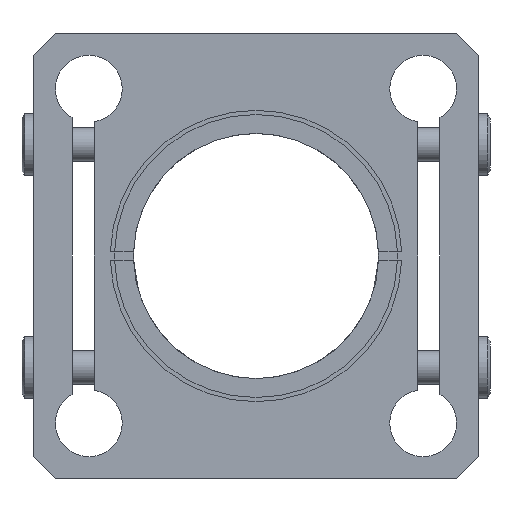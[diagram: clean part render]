
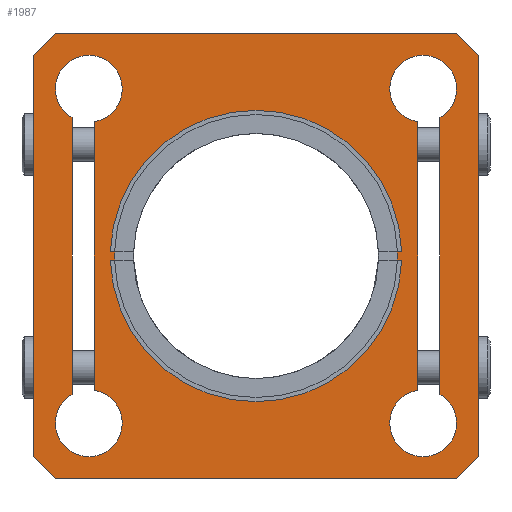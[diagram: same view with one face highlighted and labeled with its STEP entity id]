
A CAD part, front view. The second image highlights one B-rep face of the part: STEP entity #1987.
In plain terms, the highlighted planar face has unit normal (0, -1, 0).
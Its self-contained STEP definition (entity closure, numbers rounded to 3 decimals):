
#65=FACE_BOUND('',#356,.T.);
#66=FACE_BOUND('',#357,.T.);
#67=FACE_BOUND('',#358,.T.);
#142=CIRCLE('',#2133,3.);
#143=CIRCLE('',#2134,3.);
#144=CIRCLE('',#2135,3.);
#145=CIRCLE('',#2136,3.);
#146=CIRCLE('',#2137,13.075);
#147=CIRCLE('',#2138,12.7);
#148=CIRCLE('',#2139,13.075);
#149=CIRCLE('',#2140,12.7);
#150=CIRCLE('',#2141,12.7);
#230=FACE_OUTER_BOUND('',#355,.T.);
#355=EDGE_LOOP('',(#1289,#1290,#1291,#1292,#1293,#1294,#1295,#1296));
#356=EDGE_LOOP('',(#1297,#1298,#1299,#1300));
#357=EDGE_LOOP('',(#1301,#1302,#1303,#1304));
#358=EDGE_LOOP('',(#1305,#1306,#1307,#1308,#1309,#1310,#1311,#1312,#1313));
#557=LINE('',#2929,#709);
#558=LINE('',#2931,#710);
#559=LINE('',#2933,#711);
#560=LINE('',#2935,#712);
#561=LINE('',#2937,#713);
#562=LINE('',#2939,#714);
#563=LINE('',#2941,#715);
#564=LINE('',#2942,#716);
#565=LINE('',#2945,#717);
#566=LINE('',#2949,#718);
#567=LINE('',#2953,#719);
#568=LINE('',#2957,#720);
#569=LINE('',#2961,#721);
#570=LINE('',#2965,#722);
#571=LINE('',#2969,#723);
#572=LINE('',#2973,#724);
#709=VECTOR('',#2349,10.);
#710=VECTOR('',#2350,10.);
#711=VECTOR('',#2351,10.);
#712=VECTOR('',#2352,10.);
#713=VECTOR('',#2353,10.);
#714=VECTOR('',#2354,10.);
#715=VECTOR('',#2355,10.);
#716=VECTOR('',#2356,10.);
#717=VECTOR('',#2357,10.);
#718=VECTOR('',#2360,10.);
#719=VECTOR('',#2363,10.);
#720=VECTOR('',#2366,10.);
#721=VECTOR('',#2369,10.);
#722=VECTOR('',#2372,10.);
#723=VECTOR('',#2375,10.);
#724=VECTOR('',#2378,10.);
#861=VERTEX_POINT('',#2927);
#862=VERTEX_POINT('',#2928);
#863=VERTEX_POINT('',#2930);
#864=VERTEX_POINT('',#2932);
#865=VERTEX_POINT('',#2934);
#866=VERTEX_POINT('',#2936);
#867=VERTEX_POINT('',#2938);
#868=VERTEX_POINT('',#2940);
#869=VERTEX_POINT('',#2943);
#870=VERTEX_POINT('',#2944);
#871=VERTEX_POINT('',#2946);
#872=VERTEX_POINT('',#2948);
#873=VERTEX_POINT('',#2951);
#874=VERTEX_POINT('',#2952);
#875=VERTEX_POINT('',#2954);
#876=VERTEX_POINT('',#2956);
#877=VERTEX_POINT('',#2959);
#878=VERTEX_POINT('',#2960);
#879=VERTEX_POINT('',#2962);
#880=VERTEX_POINT('',#2964);
#881=VERTEX_POINT('',#2966);
#882=VERTEX_POINT('',#2968);
#883=VERTEX_POINT('',#2970);
#884=VERTEX_POINT('',#2972);
#885=VERTEX_POINT('',#2974);
#1043=EDGE_CURVE('',#861,#862,#557,.T.);
#1044=EDGE_CURVE('',#861,#863,#558,.T.);
#1045=EDGE_CURVE('',#864,#863,#559,.T.);
#1046=EDGE_CURVE('',#864,#865,#560,.T.);
#1047=EDGE_CURVE('',#866,#865,#561,.T.);
#1048=EDGE_CURVE('',#866,#867,#562,.T.);
#1049=EDGE_CURVE('',#868,#867,#563,.T.);
#1050=EDGE_CURVE('',#868,#862,#564,.T.);
#1051=EDGE_CURVE('',#869,#870,#565,.T.);
#1052=EDGE_CURVE('',#870,#871,#142,.T.);
#1053=EDGE_CURVE('',#871,#872,#566,.T.);
#1054=EDGE_CURVE('',#872,#869,#143,.T.);
#1055=EDGE_CURVE('',#873,#874,#567,.T.);
#1056=EDGE_CURVE('',#874,#875,#144,.T.);
#1057=EDGE_CURVE('',#875,#876,#568,.T.);
#1058=EDGE_CURVE('',#876,#873,#145,.T.);
#1059=EDGE_CURVE('',#877,#878,#569,.T.);
#1060=EDGE_CURVE('',#877,#879,#146,.T.);
#1061=EDGE_CURVE('',#880,#879,#570,.T.);
#1062=EDGE_CURVE('',#880,#881,#147,.T.);
#1063=EDGE_CURVE('',#882,#881,#571,.T.);
#1064=EDGE_CURVE('',#882,#883,#148,.T.);
#1065=EDGE_CURVE('',#884,#883,#572,.T.);
#1066=EDGE_CURVE('',#884,#885,#149,.T.);
#1067=EDGE_CURVE('',#885,#878,#150,.T.);
#1289=ORIENTED_EDGE('',*,*,#1043,.F.);
#1290=ORIENTED_EDGE('',*,*,#1044,.T.);
#1291=ORIENTED_EDGE('',*,*,#1045,.F.);
#1292=ORIENTED_EDGE('',*,*,#1046,.T.);
#1293=ORIENTED_EDGE('',*,*,#1047,.F.);
#1294=ORIENTED_EDGE('',*,*,#1048,.T.);
#1295=ORIENTED_EDGE('',*,*,#1049,.F.);
#1296=ORIENTED_EDGE('',*,*,#1050,.T.);
#1297=ORIENTED_EDGE('',*,*,#1051,.T.);
#1298=ORIENTED_EDGE('',*,*,#1052,.T.);
#1299=ORIENTED_EDGE('',*,*,#1053,.T.);
#1300=ORIENTED_EDGE('',*,*,#1054,.T.);
#1301=ORIENTED_EDGE('',*,*,#1055,.T.);
#1302=ORIENTED_EDGE('',*,*,#1056,.T.);
#1303=ORIENTED_EDGE('',*,*,#1057,.T.);
#1304=ORIENTED_EDGE('',*,*,#1058,.T.);
#1305=ORIENTED_EDGE('',*,*,#1059,.F.);
#1306=ORIENTED_EDGE('',*,*,#1060,.T.);
#1307=ORIENTED_EDGE('',*,*,#1061,.F.);
#1308=ORIENTED_EDGE('',*,*,#1062,.T.);
#1309=ORIENTED_EDGE('',*,*,#1063,.F.);
#1310=ORIENTED_EDGE('',*,*,#1064,.T.);
#1311=ORIENTED_EDGE('',*,*,#1065,.F.);
#1312=ORIENTED_EDGE('',*,*,#1066,.T.);
#1313=ORIENTED_EDGE('',*,*,#1067,.T.);
#1781=PLANE('',#2132);
#1987=ADVANCED_FACE('',(#230,#65,#66,#67),#1781,.T.);
#2132=AXIS2_PLACEMENT_3D('',#2926,#2347,#2348);
#2133=AXIS2_PLACEMENT_3D('',#2947,#2358,#2359);
#2134=AXIS2_PLACEMENT_3D('',#2950,#2361,#2362);
#2135=AXIS2_PLACEMENT_3D('',#2955,#2364,#2365);
#2136=AXIS2_PLACEMENT_3D('',#2958,#2367,#2368);
#2137=AXIS2_PLACEMENT_3D('',#2963,#2370,#2371);
#2138=AXIS2_PLACEMENT_3D('',#2967,#2373,#2374);
#2139=AXIS2_PLACEMENT_3D('',#2971,#2376,#2377);
#2140=AXIS2_PLACEMENT_3D('',#2975,#2379,#2380);
#2141=AXIS2_PLACEMENT_3D('',#2976,#2381,#2382);
#2347=DIRECTION('center_axis',(0.,-1.,0.));
#2348=DIRECTION('ref_axis',(0.,0.,-1.));
#2349=DIRECTION('',(-0.707,0.,-0.707));
#2350=DIRECTION('',(0.,0.,1.));
#2351=DIRECTION('',(0.707,0.,-0.707));
#2352=DIRECTION('',(-1.,0.,0.));
#2353=DIRECTION('',(0.707,0.,0.707));
#2354=DIRECTION('',(0.,0.,-1.));
#2355=DIRECTION('',(-0.707,0.,0.707));
#2356=DIRECTION('',(1.,0.,0.));
#2357=DIRECTION('',(0.,0.,-1.));
#2358=DIRECTION('center_axis',(0.,1.,0.));
#2359=DIRECTION('ref_axis',(1.,0.,0.));
#2360=DIRECTION('',(0.,0.,1.));
#2361=DIRECTION('center_axis',(0.,1.,0.));
#2362=DIRECTION('ref_axis',(1.,0.,0.));
#2363=DIRECTION('',(0.,0.,-1.));
#2364=DIRECTION('center_axis',(0.,1.,0.));
#2365=DIRECTION('ref_axis',(1.,0.,0.));
#2366=DIRECTION('',(0.,0.,1.));
#2367=DIRECTION('center_axis',(0.,1.,0.));
#2368=DIRECTION('ref_axis',(1.,0.,0.));
#2369=DIRECTION('',(-1.,0.,0.));
#2370=DIRECTION('center_axis',(0.,1.,0.));
#2371=DIRECTION('ref_axis',(1.,0.,0.));
#2372=DIRECTION('',(-1.,0.,0.));
#2373=DIRECTION('center_axis',(0.,1.,0.));
#2374=DIRECTION('ref_axis',(1.,0.,0.));
#2375=DIRECTION('',(1.,0.,0.));
#2376=DIRECTION('center_axis',(0.,1.,0.));
#2377=DIRECTION('ref_axis',(1.,0.,0.));
#2378=DIRECTION('',(1.,0.,0.));
#2379=DIRECTION('center_axis',(0.,1.,0.));
#2380=DIRECTION('ref_axis',(1.,0.,0.));
#2381=DIRECTION('center_axis',(0.,1.,0.));
#2382=DIRECTION('ref_axis',(1.,0.,0.));
#2926=CARTESIAN_POINT('Origin',(0.,-6.,0.));
#2927=CARTESIAN_POINT('',(20.,-6.,-18.));
#2928=CARTESIAN_POINT('',(18.,-6.,-20.));
#2929=CARTESIAN_POINT('',(19.,-6.,-19.));
#2930=CARTESIAN_POINT('',(20.,-6.,18.));
#2931=CARTESIAN_POINT('',(20.,-6.,20.));
#2932=CARTESIAN_POINT('',(18.,-6.,20.));
#2933=CARTESIAN_POINT('',(19.,-6.,19.));
#2934=CARTESIAN_POINT('',(-18.,-6.,20.));
#2935=CARTESIAN_POINT('',(-20.,-6.,20.));
#2936=CARTESIAN_POINT('',(-20.,-6.,18.));
#2937=CARTESIAN_POINT('',(-19.,-6.,19.));
#2938=CARTESIAN_POINT('',(-20.,-6.,-18.));
#2939=CARTESIAN_POINT('',(-20.,-6.,-20.));
#2940=CARTESIAN_POINT('',(-18.,-6.,-20.));
#2941=CARTESIAN_POINT('',(-19.,-6.,-19.));
#2942=CARTESIAN_POINT('',(20.,-6.,-20.));
#2943=CARTESIAN_POINT('',(-14.5,-6.,12.042));
#2944=CARTESIAN_POINT('',(-14.5,-6.,-12.042));
#2945=CARTESIAN_POINT('',(-14.5,-6.,6.021));
#2946=CARTESIAN_POINT('',(-16.5,-6.,-12.402));
#2947=CARTESIAN_POINT('Origin',(-15.,-6.,-15.));
#2948=CARTESIAN_POINT('',(-16.5,-6.,12.402));
#2949=CARTESIAN_POINT('',(-16.5,-6.,-6.201));
#2950=CARTESIAN_POINT('Origin',(-15.,-6.,15.));
#2951=CARTESIAN_POINT('',(16.5,-6.,12.402));
#2952=CARTESIAN_POINT('',(16.5,-6.,-12.402));
#2953=CARTESIAN_POINT('',(16.5,-6.,-6.201));
#2954=CARTESIAN_POINT('',(14.5,-6.,-12.042));
#2955=CARTESIAN_POINT('Origin',(15.,-6.,-15.));
#2956=CARTESIAN_POINT('',(14.5,-6.,12.042));
#2957=CARTESIAN_POINT('',(14.5,-6.,6.021));
#2958=CARTESIAN_POINT('Origin',(15.,-6.,15.));
#2959=CARTESIAN_POINT('',(13.069,-6.,-0.4));
#2960=CARTESIAN_POINT('',(12.694,-6.,-0.4));
#2961=CARTESIAN_POINT('',(0.,-6.,-0.4));
#2962=CARTESIAN_POINT('',(-13.069,-6.,-0.4));
#2963=CARTESIAN_POINT('Origin',(0.,-6.,0.));
#2964=CARTESIAN_POINT('',(-12.694,-6.,-0.4));
#2965=CARTESIAN_POINT('',(0.,-6.,-0.4));
#2966=CARTESIAN_POINT('',(-12.694,-6.,0.4));
#2967=CARTESIAN_POINT('Origin',(0.,-6.,0.));
#2968=CARTESIAN_POINT('',(-13.069,-6.,0.4));
#2969=CARTESIAN_POINT('',(0.,-6.,0.4));
#2970=CARTESIAN_POINT('',(13.069,-6.,0.4));
#2971=CARTESIAN_POINT('Origin',(0.,-6.,0.));
#2972=CARTESIAN_POINT('',(12.694,-6.,0.4));
#2973=CARTESIAN_POINT('',(0.,-6.,0.4));
#2974=CARTESIAN_POINT('',(12.7,-6.,0.));
#2975=CARTESIAN_POINT('Origin',(0.,-6.,0.));
#2976=CARTESIAN_POINT('Origin',(0.,-6.,0.));
